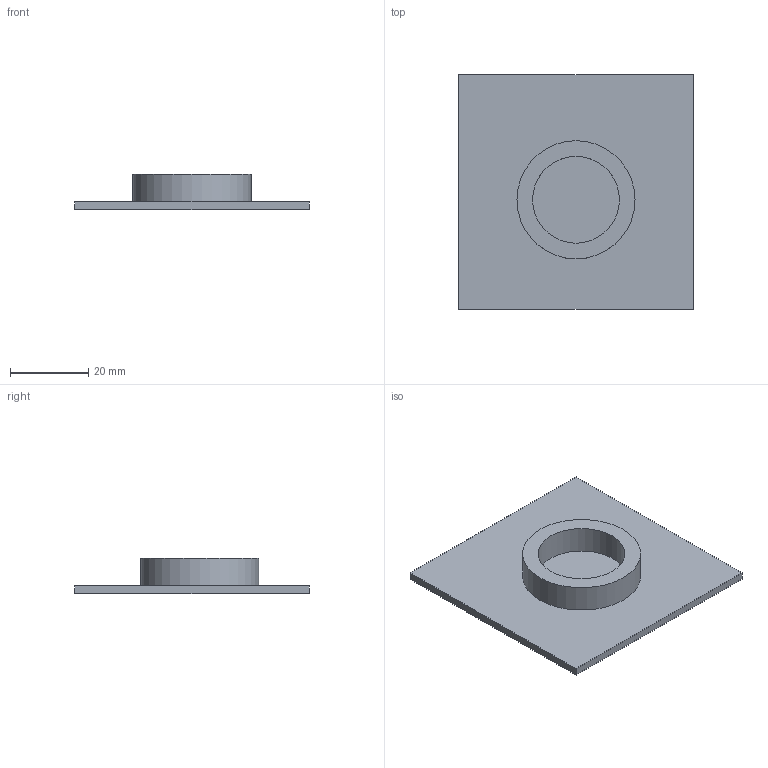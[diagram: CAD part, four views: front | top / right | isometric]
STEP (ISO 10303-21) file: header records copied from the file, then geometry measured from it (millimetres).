
FILE_DESCRIPTION(/* description */ ('STEP AP242','CAx-IF Rec.Pracs.---Representation and Presentation of Product Manufacturing Information (PMI)---4.0---2014-10-13','CAx-IF Rec.Pracs.---3D Tessellated Geometry---0.4---2014-09-14','2;1'),/* implementation_level */ '2;1');
FILE_NAME(/* name */ 'Part Studio 1 - Bottom',/* time_stamp */ '2025-09-04T05:47:27Z',/* author */ (''),/* organization */ (''),/* preprocessor_version */ 'ST-DEVELOPER v20',/* originating_system */ 'ONSHAPE BY PTC INC, 1.203',/* authorisation */ ' ');
FILE_SCHEMA (('AP242_MANAGED_MODEL_BASED_3D_ENGINEERING_MIM_LF { 1 0 10303 442 1 1 4 }'));
Length unit declared in the file: metre
Products named in the file (1): Bottom
Bounding box: 60 x 60 x 9 mm (x, y, z)
Volume: 9504.7 mm3; surface area: 8832.3 mm2
Topology: 1 solids, 1 shells, 10 faces, 18 edges, 12 vertices
Faces by surface type: plane 8, cylinder 2
Full cylindrical faces by diameter (mm): 22.2 x1, 30.2 x1
Entity records: 258 total; most frequent: DIRECTION 42, CARTESIAN_POINT 39, ORIENTED_EDGE 32, EDGE_CURVE 16, AXIS2_PLACEMENT_3D 15, EDGE_LOOP 14, FACE_BOUND 14, VERTEX_POINT 12
